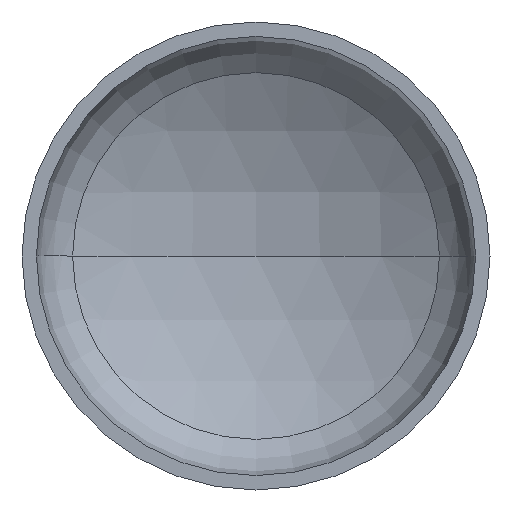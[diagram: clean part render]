
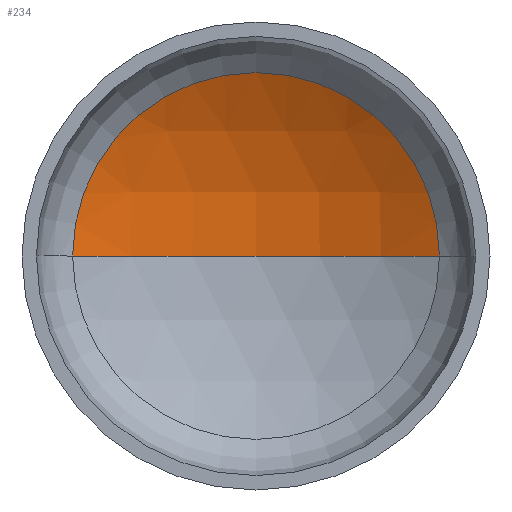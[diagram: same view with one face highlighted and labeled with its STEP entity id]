
A CAD part, front view. The second image highlights one B-rep face of the part: STEP entity #234.
In plain terms, the highlighted spherical face has radius 254 mm.
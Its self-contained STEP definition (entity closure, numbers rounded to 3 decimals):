
#1 = DIRECTION ( 'NONE',  ( 0., -1., 0. ) ) ;
#2 = DIRECTION ( 'NONE',  ( 0., 0., -1. ) ) ;
#9 = CARTESIAN_POINT ( 'NONE',  ( 0., -146.698, 0. ) ) ;
#21 = VERTEX_POINT ( 'NONE', #355 ) ;
#23 = ORIENTED_EDGE ( 'NONE', *, *, #174, .T. ) ;
#24 = AXIS2_PLACEMENT_3D ( 'NONE', #127, #399, #392 ) ;
#26 = CIRCLE ( 'NONE', #59, 254. ) ;
#59 = AXIS2_PLACEMENT_3D ( 'NONE', #175, #214, #408 ) ;
#64 = AXIS2_PLACEMENT_3D ( 'NONE', #9, #2, #242 ) ;
#72 = AXIS2_PLACEMENT_3D ( 'NONE', #112, #1, #209 ) ;
#111 = CARTESIAN_POINT ( 'NONE',  ( 0., 107.302, 0. ) ) ;
#112 = CARTESIAN_POINT ( 'NONE',  ( 0., 73.308, 0. ) ) ;
#124 = CIRCLE ( 'NONE', #72, 126.938 ) ;
#127 = CARTESIAN_POINT ( 'NONE',  ( 0., -146.698, 0. ) ) ;
#151 = ORIENTED_EDGE ( 'NONE', *, *, #176, .T. ) ;
#174 = EDGE_CURVE ( 'NONE', #21, #405, #124, .T. ) ;
#175 = CARTESIAN_POINT ( 'NONE',  ( 0., -146.698, 0. ) ) ;
#176 = EDGE_CURVE ( 'NONE', #207, #21, #288, .T. ) ;
#188 = EDGE_CURVE ( 'NONE', #207, #405, #26, .T. ) ;
#207 = VERTEX_POINT ( 'NONE', #111 ) ;
#209 = DIRECTION ( 'NONE',  ( 1., 0., 0. ) ) ;
#214 = DIRECTION ( 'NONE',  ( 0., 0., 1. ) ) ;
#232 = EDGE_LOOP ( 'NONE', ( #410, #151, #23 ) ) ;
#234 = ADVANCED_FACE ( 'NONE', ( #344 ), #260, .F. ) ;
#242 = DIRECTION ( 'NONE',  ( -1., 0., 0. ) ) ;
#260 = SPHERICAL_SURFACE ( 'NONE', #24, 254. ) ;
#288 = CIRCLE ( 'NONE', #64, 254. ) ;
#344 = FACE_OUTER_BOUND ( 'NONE', #232, .T. ) ;
#355 = CARTESIAN_POINT ( 'NONE',  ( 126.938, 73.308, 0. ) ) ;
#388 = CARTESIAN_POINT ( 'NONE',  ( -126.938, 73.308, 0. ) ) ;
#392 = DIRECTION ( 'NONE',  ( -1., 0., 0. ) ) ;
#399 = DIRECTION ( 'NONE',  ( 0., 0., -1. ) ) ;
#405 = VERTEX_POINT ( 'NONE', #388 ) ;
#408 = DIRECTION ( 'NONE',  ( 1., 0., 0. ) ) ;
#410 = ORIENTED_EDGE ( 'NONE', *, *, #188, .F. ) ;
